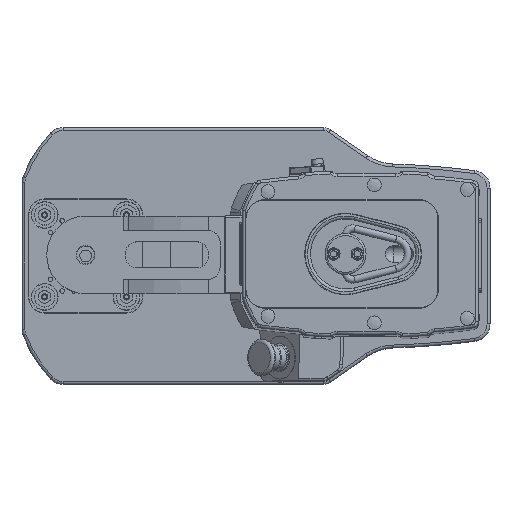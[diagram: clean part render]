
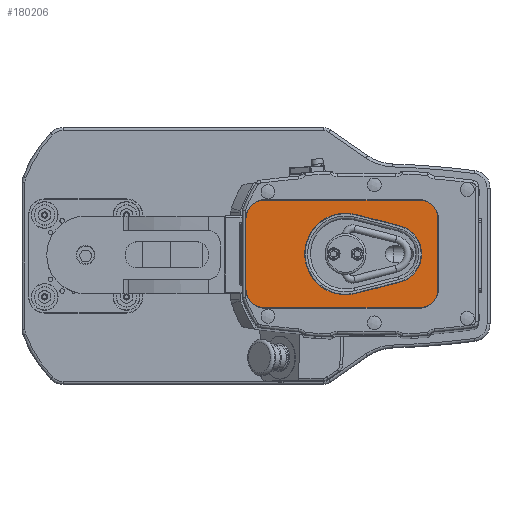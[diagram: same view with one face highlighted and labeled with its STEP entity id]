
A CAD part, top view. The second image highlights one B-rep face of the part: STEP entity #180206.
In plain terms, the highlighted planar face has unit normal (0, 0, 1).
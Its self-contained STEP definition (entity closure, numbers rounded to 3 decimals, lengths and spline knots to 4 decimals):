
#2941=FACE_BOUND('',#19041,.T.);
#9253=FACE_OUTER_BOUND('',#19040,.T.);
#19040=EDGE_LOOP('',(#150364,#150365,#150366,#150367,#150368,#150369,#150370,
#150371));
#19041=EDGE_LOOP('',(#150372,#150373,#150374,#150375));
#23776=CIRCLE('',#191082,1.744);
#23777=CIRCLE('',#191085,1.25);
#23778=CIRCLE('',#191089,0.8);
#23779=CIRCLE('',#191092,0.8);
#23780=CIRCLE('',#191095,0.8);
#23781=CIRCLE('',#191098,0.8);
#41295=LINE('',#283281,#63787);
#41297=LINE('',#283287,#63789);
#41299=LINE('',#283292,#63791);
#41302=LINE('',#283300,#63794);
#41305=LINE('',#283308,#63797);
#41308=LINE('',#283316,#63800);
#63787=VECTOR('',#227609,1.);
#63789=VECTOR('',#227617,1.);
#63791=VECTOR('',#227621,1.);
#63794=VECTOR('',#227630,1.);
#63797=VECTOR('',#227639,1.);
#63800=VECTOR('',#227648,1.);
#82987=VERTEX_POINT('',#283273);
#82988=VERTEX_POINT('',#283275);
#82989=VERTEX_POINT('',#283279);
#82990=VERTEX_POINT('',#283283);
#82991=VERTEX_POINT('',#283289);
#82992=VERTEX_POINT('',#283291);
#82993=VERTEX_POINT('',#283295);
#82994=VERTEX_POINT('',#283299);
#82995=VERTEX_POINT('',#283303);
#82996=VERTEX_POINT('',#283307);
#82997=VERTEX_POINT('',#283311);
#82998=VERTEX_POINT('',#283315);
#106523=EDGE_CURVE('',#82988,#82987,#23776,.T.);
#106526=EDGE_CURVE('',#82987,#82989,#41295,.T.);
#106528=EDGE_CURVE('',#82989,#82990,#23777,.T.);
#106529=EDGE_CURVE('',#82990,#82988,#41297,.T.);
#106531=EDGE_CURVE('',#82992,#82991,#41299,.T.);
#106533=EDGE_CURVE('',#82993,#82992,#23778,.T.);
#106535=EDGE_CURVE('',#82994,#82993,#41302,.T.);
#106537=EDGE_CURVE('',#82995,#82994,#23779,.T.);
#106539=EDGE_CURVE('',#82996,#82995,#41305,.T.);
#106541=EDGE_CURVE('',#82997,#82996,#23780,.T.);
#106543=EDGE_CURVE('',#82998,#82997,#41308,.T.);
#106545=EDGE_CURVE('',#82991,#82998,#23781,.T.);
#150364=ORIENTED_EDGE('',*,*,#106545,.T.);
#150365=ORIENTED_EDGE('',*,*,#106543,.T.);
#150366=ORIENTED_EDGE('',*,*,#106541,.T.);
#150367=ORIENTED_EDGE('',*,*,#106539,.T.);
#150368=ORIENTED_EDGE('',*,*,#106537,.T.);
#150369=ORIENTED_EDGE('',*,*,#106535,.T.);
#150370=ORIENTED_EDGE('',*,*,#106533,.T.);
#150371=ORIENTED_EDGE('',*,*,#106531,.T.);
#150372=ORIENTED_EDGE('',*,*,#106523,.T.);
#150373=ORIENTED_EDGE('',*,*,#106526,.T.);
#150374=ORIENTED_EDGE('',*,*,#106528,.T.);
#150375=ORIENTED_EDGE('',*,*,#106529,.T.);
#171969=PLANE('',#191099);
#180206=ADVANCED_FACE('',(#9253,#2941),#171969,.T.);
#191082=AXIS2_PLACEMENT_3D('',#283276,#227603,#227604);
#191085=AXIS2_PLACEMENT_3D('',#283285,#227613,#227614);
#191089=AXIS2_PLACEMENT_3D('',#283296,#227625,#227626);
#191092=AXIS2_PLACEMENT_3D('',#283304,#227634,#227635);
#191095=AXIS2_PLACEMENT_3D('',#283312,#227643,#227644);
#191098=AXIS2_PLACEMENT_3D('',#283319,#227652,#227653);
#191099=AXIS2_PLACEMENT_3D('',#283320,#227654,#227655);
#227603=DIRECTION('center_axis',(0.,0.,
-1.));
#227604=DIRECTION('ref_axis',(0.247,0.969,0.));
#227609=DIRECTION('',(0.969,-0.247,0.));
#227613=DIRECTION('center_axis',(0.,0.,
-1.));
#227614=DIRECTION('ref_axis',(0.247,-0.969,0.));
#227617=DIRECTION('',(-0.969,-0.247,0.));
#227621=DIRECTION('',(1.,0.,0.));
#227625=DIRECTION('center_axis',(0.,0.,
1.));
#227626=DIRECTION('ref_axis',(-1.,0.,0.));
#227630=DIRECTION('',(0.,-1.,0.));
#227634=DIRECTION('center_axis',(0.,0.,
1.));
#227635=DIRECTION('ref_axis',(0.,1.,0.));
#227639=DIRECTION('',(-1.,0.,0.));
#227643=DIRECTION('center_axis',(0.,0.,
1.));
#227644=DIRECTION('ref_axis',(1.,0.,0.));
#227648=DIRECTION('',(0.,1.,0.));
#227652=DIRECTION('center_axis',(0.,0.,
1.));
#227653=DIRECTION('ref_axis',(0.,-1.,0.));
#227654=DIRECTION('center_axis',(0.,0.,
1.));
#227655=DIRECTION('ref_axis',(0.,1.,0.));
#283273=CARTESIAN_POINT('',(19.2666,37.9356,57.7197));
#283275=CARTESIAN_POINT('',(19.2666,34.5557,57.7197));
#283276=CARTESIAN_POINT('Origin',(18.8359,36.2456,57.7197));
#283279=CARTESIAN_POINT('',(21.1446,37.4569,57.7197));
#283281=CARTESIAN_POINT('',(20.1333,37.7147,57.7197));
#283283=CARTESIAN_POINT('',(21.1446,35.0344,57.7197));
#283285=CARTESIAN_POINT('Origin',(20.8359,36.2456,57.7197));
#283287=CARTESIAN_POINT('',(19.1943,34.5372,57.7197));
#283289=CARTESIAN_POINT('',(21.9818,33.9456,57.7197));
#283291=CARTESIAN_POINT('',(15.3818,33.9456,57.7197));
#283292=CARTESIAN_POINT('',(15.3818,33.9456,57.7197));
#283295=CARTESIAN_POINT('',(14.5818,34.7456,57.7197));
#283296=CARTESIAN_POINT('Origin',(15.3818,34.7456,57.7197));
#283299=CARTESIAN_POINT('',(14.5818,37.7456,57.7197));
#283300=CARTESIAN_POINT('',(14.5818,37.7456,57.7197));
#283303=CARTESIAN_POINT('',(15.3818,38.5456,57.7197));
#283304=CARTESIAN_POINT('Origin',(15.3818,37.7456,57.7197));
#283307=CARTESIAN_POINT('',(21.9818,38.5456,57.7197));
#283308=CARTESIAN_POINT('',(21.9818,38.5456,57.7197));
#283311=CARTESIAN_POINT('',(22.7818,37.7456,57.7197));
#283312=CARTESIAN_POINT('Origin',(21.9818,37.7456,57.7197));
#283315=CARTESIAN_POINT('',(22.7818,34.7456,57.7197));
#283316=CARTESIAN_POINT('',(22.7818,34.7456,57.7197));
#283319=CARTESIAN_POINT('Origin',(21.9818,34.7456,57.7197));
#283320=CARTESIAN_POINT('Origin',(18.6818,36.2456,57.7197));
